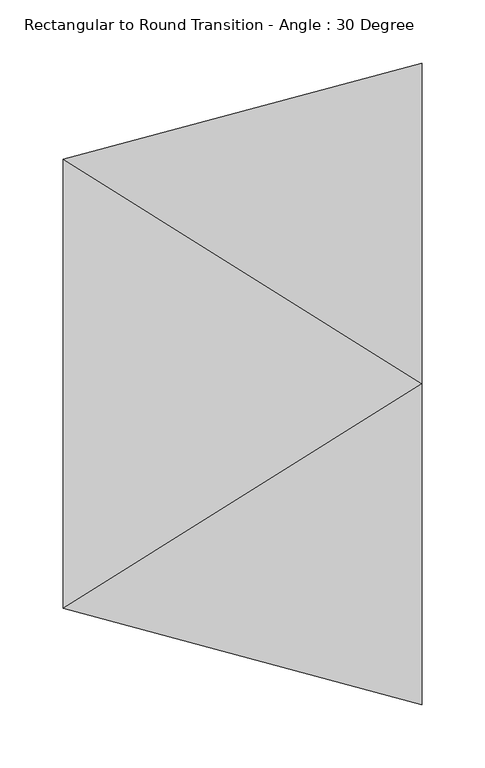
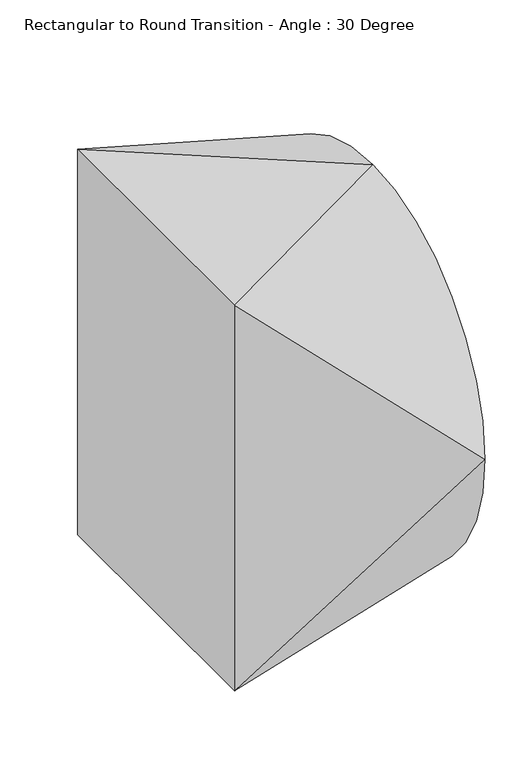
"""IFC4 building model written with IfcOpenShell, lengths in millimetres: duct fitting geometry, Rectangular to Round Transition - Angle : 30 Degree."""

from ifc_helpers import new_model, si_unit, frame, origin, place, context, project, spatial, circle_curve, source, transform, mapped, element, save
from ifc_brep_helpers import plane_surface, spline_surface, advanced_brep


def rectangular_to_round_transition_angle_30_degree_4b8b6557(model_context):
    return source(origin(), model_context, "Body", "AdvancedBrep", [
        advanced_brep(
        [(284.3822715, 0.0, 254.0), (284.3822715, -254.0, 0.0), (284.3822715, 0.0, -254.0), (284.3822715, 254.0, 0.0), (0.0, -177.8, 266.7), (0.0, 177.8, 266.7), (0.0, 177.8, -266.7), (0.0, -177.8, -266.7)],
        [
            (0, 1, circle_curve(frame((284.3822715, 0.0, 0.0), z_axis=(1.0, 0.0, 0.0), x_axis=(0.0, 1.0, 0.0)), 254.0)),
            (1, 2, circle_curve(frame((284.3822715, 0.0, 0.0), z_axis=(1.0, 0.0, 0.0), x_axis=(0.0, 1.0, 0.0)), 254.0)),
            (2, 3, circle_curve(frame((284.3822715, 0.0, 0.0), z_axis=(1.0, 0.0, 0.0), x_axis=(0.0, 1.0, 0.0)), 254.0)),
            (3, 0, circle_curve(frame((284.3822715, 0.0, 0.0), z_axis=(1.0, 0.0, 0.0), x_axis=(0.0, 1.0, 0.0)), 254.0)),
            (4, 5),
            (5, 6),
            (6, 7),
            (7, 4),
            (0, 4),
            (4, 1),
            (7, 1),
            (7, 2),
            (6, 2),
            (6, 3),
            (5, 3),
            (5, 0),
        ],
        [
            plane_surface(frame((284.3822715, 0.0, 0.0), z_axis=(1.0, 0.0, 0.0), x_axis=(0.0, 0.0, -1.0))),
            plane_surface(frame((0.0, 0.0, 0.0), z_axis=(-1.0, 0.0, 0.0), x_axis=(0.0, 0.0, -1.0))),
            spline_surface(2, 1, [[(0.0, -177.8, 266.7), (284.3822715, 0.0, 254.0)], [(0.0, -177.8, 266.7), (284.3822715, -254.0, 254.0)], [(0.0, -177.8, 266.7), (284.3822715, -254.0, 0.0)]], [3, 3], [2, 2], [0.0, 1.0], [0.0, 1.0], weights=[[1.0, 1.0], [0.7071067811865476, 0.7071067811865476], [1.0, 1.0]]),
            plane_surface(frame((0.0, -177.8, 0.0), z_axis=(-0.2588190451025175, -0.9659258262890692, 0.0), x_axis=(0.0, 0.0, -1.0))),
            spline_surface(2, 1, [[(0.0, -177.8, -266.7), (284.3822715, -254.0, 0.0)], [(0.0, -177.8, -266.7), (284.3822715, -254.0, -254.0)], [(0.0, -177.8, -266.7), (284.3822715, 0.0, -254.0)]], [3, 3], [2, 2], [0.0, 1.0], [0.0, 1.0], weights=[[1.0, 1.0], [0.7071067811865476, 0.7071067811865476], [1.0, 1.0]]),
            plane_surface(frame((0.0, 0.0, -266.7), z_axis=(0.044613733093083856, 0.0, -0.9990043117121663), x_axis=(0.0, 1.0, 0.0))),
            spline_surface(2, 1, [[(0.0, 177.8, -266.7), (284.3822715, 0.0, -254.0)], [(0.0, 177.8, -266.7), (284.3822715, 254.0, -254.0)], [(0.0, 177.8, -266.7), (284.3822715, 254.0, 0.0)]], [3, 3], [2, 2], [0.0, 1.0], [0.0, 1.0], weights=[[1.0, 1.0], [0.7071067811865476, 0.7071067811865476], [1.0, 1.0]]),
            plane_surface(frame((0.0, 177.8, 0.0), z_axis=(-0.25881904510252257, 0.9659258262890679, 0.0), x_axis=(0.0, 0.0, 1.0))),
            spline_surface(2, 1, [[(0.0, 177.8, 266.7), (284.3822715, 254.0, 0.0)], [(0.0, 177.8, 266.7), (284.3822715, 254.0, 254.0)], [(0.0, 177.8, 266.7), (284.3822715, 0.0, 254.0)]], [3, 3], [2, 2], [0.0, 1.0], [0.0, 1.0], weights=[[1.0, 1.0], [0.7071067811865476, 0.7071067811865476], [1.0, 1.0]]),
            plane_surface(frame((0.0, 0.0, 266.7), z_axis=(0.044613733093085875, 0.0, 0.9990043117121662), x_axis=(0.0, -1.0, 0.0))),
        ],
        [
            (0, [[1, 2, 3, 4]]),
            (1, [[5, 6, 7, 8]]),
            (2, [[-1, 9, 10]]),
            (3, [[-8, 11, -10]]),
            (4, [[-2, -11, 12]]),
            (5, [[-7, 13, -12]]),
            (6, [[-3, -13, 14]]),
            (7, [[-6, 15, -14]]),
            (8, [[-4, -15, 16]]),
            (9, [[-5, -9, -16]]),
        ],
    ),
    ])


if __name__ == "__main__":
    model = new_model("IFC4")
    model_context = context("Model", 3, world=origin())
    ifc_project = project(units=[si_unit("LENGTHUNIT", "METRE", prefix="MILLI")], contexts=[model_context])
    site = spatial("IfcSite", under=ifc_project)
    building = spatial("IfcBuilding", under=site)
    placement = place(None, origin())
    rectangular_to_round_transition_angle_30_degree_shape = rectangular_to_round_transition_angle_30_degree_4b8b6557(model_context)
    element("IfcDuctFitting", 1, ObjectType="Rectangular to Round Transition - Angle : 30 Degree", at=placement, inside=building, context=model_context, shape_type="MappedRepresentation", body=[
        mapped(rectangular_to_round_transition_angle_30_degree_shape, transform((0.0, 0.0, 0.0), x_axis=(1.0, 0.0, 0.0), y_axis=(0.0, 1.0, 0.0), z_axis=(0.0, 0.0, 1.0))),
    ])
    save(model, "model.ifc")
